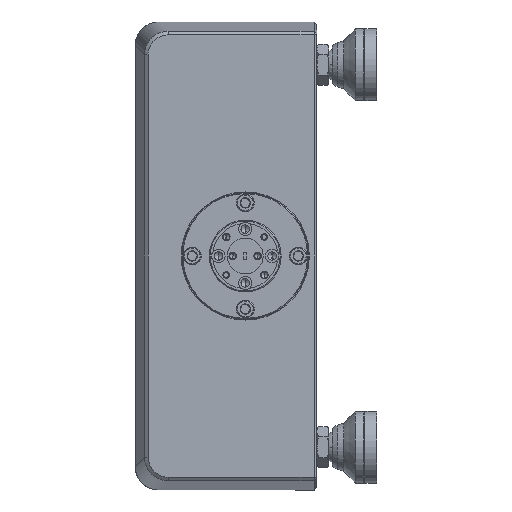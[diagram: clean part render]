
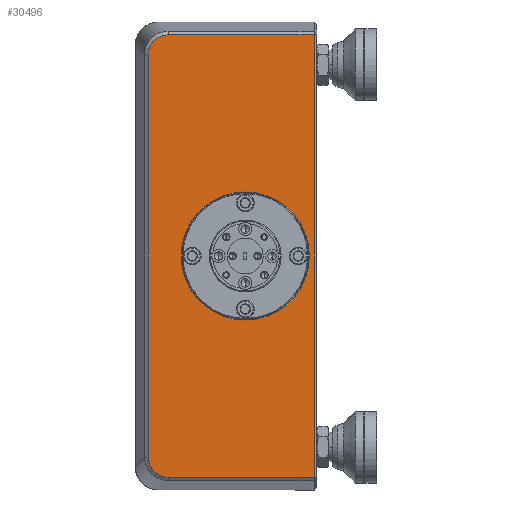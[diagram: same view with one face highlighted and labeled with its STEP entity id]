
A CAD part, left-side view. The second image highlights one B-rep face of the part: STEP entity #30496.
In plain terms, the highlighted planar face has unit normal (-1, 0, 0).
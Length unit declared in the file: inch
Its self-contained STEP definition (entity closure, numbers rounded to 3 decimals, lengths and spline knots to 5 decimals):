
#552 = VERTEX_POINT ( 'NONE', #2065 ) ;
#647 = B_SPLINE_CURVE_WITH_KNOTS ( 'NONE', 3,
 ( #33034, #20653, #85428, #98648, #32205, #97003, #111025, #110230, #161531, #149121 ),
 .UNSPECIFIED., .F., .F.,
 ( 4, 2, 2, 2, 4 ),
 ( 0., 0.25, 0.5, 0.75, 1. ),
 .UNSPECIFIED. ) ;
#2065 = CARTESIAN_POINT ( 'NONE',  ( -3.68787, -0.35747, -0.48321 ) ) ;
#2518 = ORIENTED_EDGE ( 'NONE', *, *, #135502, .F. ) ;
#3441 = CARTESIAN_POINT ( 'NONE',  ( -3.68787, 0.36253, 1.15911 ) ) ;
#3733 = DIRECTION ( 'NONE',  ( 1., 0., 0. ) ) ;
#5193 = EDGE_CURVE ( 'NONE', #43778, #55351, #647, .T. ) ;
#7592 = DIRECTION ( 'NONE',  ( 0., 0., 1. ) ) ;
#7600 = CIRCLE ( 'NONE', #102949, 0.67 ) ;
#7779 = VERTEX_POINT ( 'NONE', #100701 ) ;
#7970 = VERTEX_POINT ( 'NONE', #79893 ) ;
#8911 = EDGE_LOOP ( 'NONE', ( #2518, #157771 ) ) ;
#12430 = CARTESIAN_POINT ( 'NONE',  ( -3.68787, 1.37217, -0.32928 ) ) ;
#13546 = CARTESIAN_POINT ( 'NONE',  ( -3.68787, 0.36253, 2.49911 ) ) ;
#14598 = FACE_OUTER_BOUND ( 'NONE', #20165, .T. ) ;
#16081 = DIRECTION ( 'NONE',  ( 0., 1., 0. ) ) ;
#18074 = DIRECTION ( 'NONE',  ( 0., 0., 1. ) ) ;
#19331 = DIRECTION ( 'NONE',  ( 0., -1., 0. ) ) ;
#20165 = EDGE_LOOP ( 'NONE', ( #107638, #89453, #113480, #71666, #106654, #63646 ) ) ;
#20653 = CARTESIAN_POINT ( 'NONE',  ( -3.68787, 1.19617, 4.14144 ) ) ;
#21693 = EDGE_CURVE ( 'NONE', #552, #7779, #81216, .T. ) ;
#25185 = CARTESIAN_POINT ( 'NONE',  ( -3.68787, 1.16869, 4.14143 ) ) ;
#30445 = VECTOR ( 'NONE', #66499, 39.37008 ) ;
#30496 = ADVANCED_FACE ( 'NONE', ( #14598, #67644 ), #65993, .F. ) ;
#32022 = EDGE_CURVE ( 'NONE', #34147, #7970, #115149, .T. ) ;
#32205 = CARTESIAN_POINT ( 'NONE',  ( -3.68787, 1.29738, 4.09971 ) ) ;
#33034 = CARTESIAN_POINT ( 'NONE',  ( -3.68787, 1.16869, 4.14143 ) ) ;
#34147 = VERTEX_POINT ( 'NONE', #124834 ) ;
#39352 = DIRECTION ( 'NONE',  ( 0., 0., -1. ) ) ;
#43778 = VERTEX_POINT ( 'NONE', #25185 ) ;
#47212 = CARTESIAN_POINT ( 'NONE',  ( -3.68787, 1.37761, -0.27429 ) ) ;
#53192 = VECTOR ( 'NONE', #18074, 39.37008 ) ;
#55351 = VERTEX_POINT ( 'NONE', #68688 ) ;
#58238 = CARTESIAN_POINT ( 'NONE',  ( -3.68787, 0.56253, -0.48321 ) ) ;
#59196 = VECTOR ( 'NONE', #19331, 39.37008 ) ;
#62997 = CARTESIAN_POINT ( 'NONE',  ( -3.68787, 1.35138, -0.37975 ) ) ;
#63646 = ORIENTED_EDGE ( 'NONE', *, *, #151183, .T. ) ;
#65686 = CARTESIAN_POINT ( 'NONE',  ( -3.68787, 1.37761, 1.82911 ) ) ;
#65993 = PLANE ( 'NONE',  #144786 ) ;
#66453 = VERTEX_POINT ( 'NONE', #13546 ) ;
#66499 = DIRECTION ( 'NONE',  ( 0., 0., -1. ) ) ;
#67605 = EDGE_CURVE ( 'NONE', #98142, #66453, #7600, .T. ) ;
#67644 = FACE_BOUND ( 'NONE', #8911, .T. ) ;
#68688 = CARTESIAN_POINT ( 'NONE',  ( -3.68787, 1.37761, 3.93251 ) ) ;
#71666 = ORIENTED_EDGE ( 'NONE', *, *, #97257, .T. ) ;
#72198 = CARTESIAN_POINT ( 'NONE',  ( -3.68787, 1.16869, -0.48321 ) ) ;
#75455 = CARTESIAN_POINT ( 'NONE',  ( -3.68787, 1.19623, -0.48321 ) ) ;
#79893 = CARTESIAN_POINT ( 'NONE',  ( -3.68787, 1.16869, -0.48321 ) ) ;
#80457 = CIRCLE ( 'NONE', #112203, 0.67 ) ;
#81216 = LINE ( 'NONE', #131728, #53192 ) ;
#85428 = CARTESIAN_POINT ( 'NONE',  ( -3.68787, 1.22367, 4.136 ) ) ;
#88181 = LINE ( 'NONE', #65686, #30445 ) ;
#89453 = ORIENTED_EDGE ( 'NONE', *, *, #109793, .T. ) ;
#89550 = CARTESIAN_POINT ( 'NONE',  ( -3.68787, 0.36253, 1.82911 ) ) ;
#92776 = DIRECTION ( 'NONE',  ( -1., 0., 0. ) ) ;
#96394 = DIRECTION ( 'NONE',  ( -1., 0., 0. ) ) ;
#97003 = CARTESIAN_POINT ( 'NONE',  ( -3.68787, 1.33589, 4.06121 ) ) ;
#97257 = EDGE_CURVE ( 'NONE', #7779, #43778, #114864, .T. ) ;
#97326 = LINE ( 'NONE', #58238, #59196 ) ;
#98142 = VERTEX_POINT ( 'NONE', #3441 ) ;
#98648 = CARTESIAN_POINT ( 'NONE',  ( -3.68787, 1.27415, 4.1152 ) ) ;
#99430 = CARTESIAN_POINT ( 'NONE',  ( -3.68787, 0.36253, 1.82911 ) ) ;
#100701 = CARTESIAN_POINT ( 'NONE',  ( -3.68787, -0.35747, 4.14143 ) ) ;
#100838 = VECTOR ( 'NONE', #16081, 39.37008 ) ;
#102949 = AXIS2_PLACEMENT_3D ( 'NONE', #89550, #92776, #130911 ) ;
#106654 = ORIENTED_EDGE ( 'NONE', *, *, #5193, .T. ) ;
#107638 = ORIENTED_EDGE ( 'NONE', *, *, #32022, .T. ) ;
#109793 = EDGE_CURVE ( 'NONE', #7970, #552, #97326, .T. ) ;
#110230 = CARTESIAN_POINT ( 'NONE',  ( -3.68787, 1.37218, 3.9875 ) ) ;
#110303 = CARTESIAN_POINT ( 'NONE',  ( -3.68787, 1.29739, -0.44149 ) ) ;
#111025 = CARTESIAN_POINT ( 'NONE',  ( -3.68787, 1.35137, 4.03797 ) ) ;
#111103 = CARTESIAN_POINT ( 'NONE',  ( -3.68787, 1.22368, -0.47778 ) ) ;
#112203 = AXIS2_PLACEMENT_3D ( 'NONE', #99430, #96394, #7592 ) ;
#113480 = ORIENTED_EDGE ( 'NONE', *, *, #21693, .T. ) ;
#114864 = LINE ( 'NONE', #128102, #100838 ) ;
#115149 = B_SPLINE_CURVE_WITH_KNOTS ( 'NONE', 3,
 ( #47212, #122797, #12430, #62997, #150828, #110303, #159979, #111103, #75455, #72198 ),
 .UNSPECIFIED., .F., .F.,
 ( 4, 2, 2, 2, 4 ),
 ( 0., 0.25, 0.5, 0.75, 1. ),
 .UNSPECIFIED. ) ;
#116609 = CARTESIAN_POINT ( 'NONE',  ( -3.68787, 0.56253, 1.82911 ) ) ;
#122797 = CARTESIAN_POINT ( 'NONE',  ( -3.68787, 1.37761, -0.30178 ) ) ;
#124834 = CARTESIAN_POINT ( 'NONE',  ( -3.68787, 1.37761, -0.27429 ) ) ;
#128102 = CARTESIAN_POINT ( 'NONE',  ( -3.68787, 0.56253, 4.14143 ) ) ;
#130911 = DIRECTION ( 'NONE',  ( 0., 0., 1. ) ) ;
#131728 = CARTESIAN_POINT ( 'NONE',  ( -3.68787, -0.35747, 1.82911 ) ) ;
#135502 = EDGE_CURVE ( 'NONE', #66453, #98142, #80457, .T. ) ;
#144786 = AXIS2_PLACEMENT_3D ( 'NONE', #116609, #3733, #39352 ) ;
#149121 = CARTESIAN_POINT ( 'NONE',  ( -3.68787, 1.37761, 3.93251 ) ) ;
#150828 = CARTESIAN_POINT ( 'NONE',  ( -3.68787, 1.33589, -0.40299 ) ) ;
#151183 = EDGE_CURVE ( 'NONE', #55351, #34147, #88181, .T. ) ;
#157771 = ORIENTED_EDGE ( 'NONE', *, *, #67605, .F. ) ;
#159979 = CARTESIAN_POINT ( 'NONE',  ( -3.68787, 1.27415, -0.45698 ) ) ;
#161531 = CARTESIAN_POINT ( 'NONE',  ( -3.68787, 1.37761, 3.96006 ) ) ;
